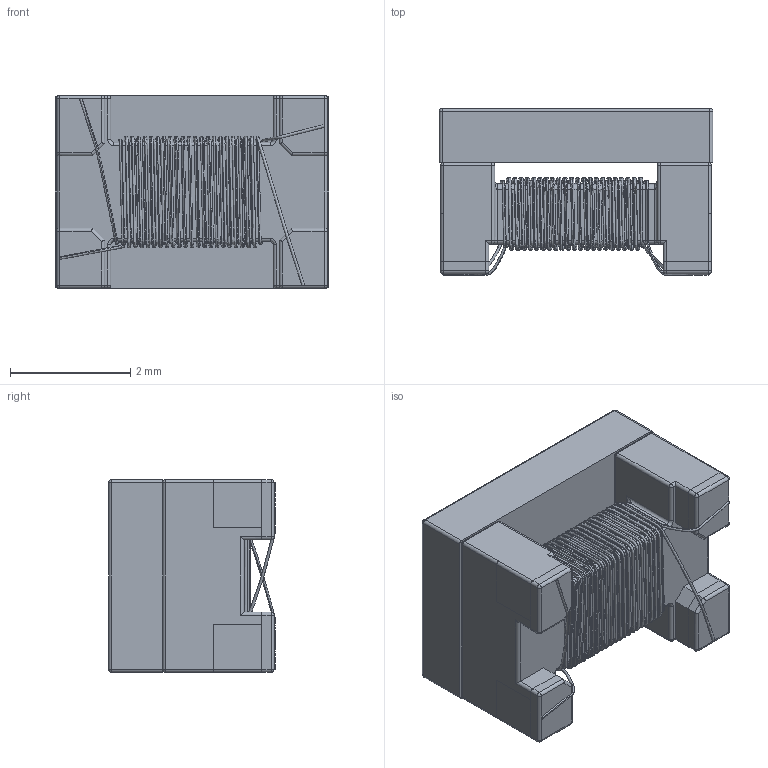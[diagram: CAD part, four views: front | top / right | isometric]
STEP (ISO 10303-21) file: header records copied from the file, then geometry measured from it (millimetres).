
FILE_DESCRIPTION (( 'STEP AP203' ), '1' );
FILE_NAME ('SCMC-4532.STEP', '2025-10-20T03:44:50', ( '' ), ( '' ), 'SwSTEP 2.0', 'SolidWorks 2025', '' );
FILE_SCHEMA (( 'CONFIG_CONTROL_DESIGN' ));
Products named in the file (3): SCMC-4532; 4532 CMC I_CORE; 4532 CMC H_COIL
Assembly tree (2 placements, depth 2):
  SCMC-4532
    4532 CMC H_COIL
    4532 CMC I_CORE
Bounding box: 4.55 x 2.77 x 3.2 mm (x, y, z)
Volume: 27.4 mm3; surface area: 127.1 mm2
Topology: 2 solids, 2 shells, 215 faces, 520 edges, 269 vertices
Faces by surface type: cylinder 94, plane 69, sphere 28, bspline 20, torus 4
Entity records: 40168 total; most frequent: CARTESIAN_POINT 35287, ORIENTED_EDGE 976, DIRECTION 948, EDGE_CURVE 488, AXIS2_PLACEMENT_3D 344, VERTEX_POINT 269, VECTOR 260, LINE 260
